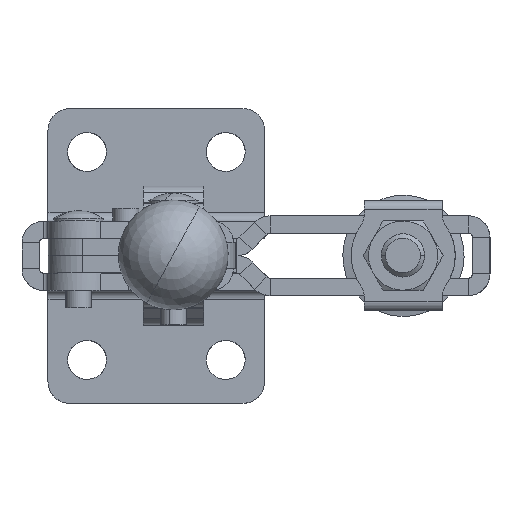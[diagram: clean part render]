
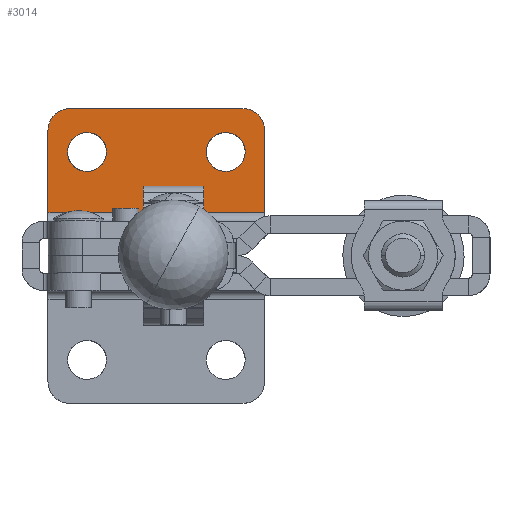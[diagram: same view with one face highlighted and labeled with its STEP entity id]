
A CAD part, top view. The second image highlights one B-rep face of the part: STEP entity #3014.
In plain terms, the highlighted planar face has unit normal (0, 0, 1).
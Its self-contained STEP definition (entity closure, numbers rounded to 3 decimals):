
#862=CARTESIAN_POINT('Vertex',(8.25,12.,-6.)) ;
#866=CARTESIAN_POINT('Control Point',(3.75,12.,-6.)) ;
#867=CARTESIAN_POINT('Control Point',(3.75,12.594,-6.)) ;
#868=CARTESIAN_POINT('Control Point',(3.946,13.189,-6.)) ;
#869=CARTESIAN_POINT('Control Point',(4.34,13.696,-6.)) ;
#870=CARTESIAN_POINT('Control Point',(5.132,14.202,-6.)) ;
#871=CARTESIAN_POINT('Control Point',(6.032,14.28,-6.)) ;
#872=CARTESIAN_POINT('Control Point',(6.334,14.255,-6.)) ;
#873=CARTESIAN_POINT('Control Point',(7.14,14.052,-6.)) ;
#874=CARTESIAN_POINT('Control Point',(7.796,13.507,-6.)) ;
#875=CARTESIAN_POINT('Control Point',(8.099,13.044,-6.)) ;
#876=CARTESIAN_POINT('Control Point',(8.25,12.522,-6.)) ;
#877=CARTESIAN_POINT('Control Point',(8.25,12.,-6.)) ;
#878=CARTESIAN_POINT('Vertex',(3.75,12.,-6.)) ;
#987=CARTESIAN_POINT('Control Point',(8.25,12.,-6.)) ;
#988=CARTESIAN_POINT('Control Point',(8.25,11.478,-6.)) ;
#989=CARTESIAN_POINT('Control Point',(8.099,10.956,-6.)) ;
#990=CARTESIAN_POINT('Control Point',(7.796,10.493,-6.)) ;
#991=CARTESIAN_POINT('Control Point',(7.14,9.948,-6.)) ;
#992=CARTESIAN_POINT('Control Point',(6.334,9.745,-6.)) ;
#993=CARTESIAN_POINT('Control Point',(6.032,9.72,-6.)) ;
#994=CARTESIAN_POINT('Control Point',(5.132,9.798,-6.)) ;
#995=CARTESIAN_POINT('Control Point',(4.34,10.304,-6.)) ;
#996=CARTESIAN_POINT('Control Point',(3.946,10.811,-6.)) ;
#997=CARTESIAN_POINT('Control Point',(3.75,11.406,-6.)) ;
#998=CARTESIAN_POINT('Control Point',(3.75,12.,-6.)) ;
#2245=CARTESIAN_POINT('Axis2P3D Location',(0.,0.,-6.)) ;
#2603=CARTESIAN_POINT('Vertex',(-12.,17.,-6.)) ;
#2608=CARTESIAN_POINT('Line Origine',(-2.,17.,-6.)) ;
#2612=CARTESIAN_POINT('Vertex',(8.,17.,-6.)) ;
#2643=CARTESIAN_POINT('Vertex',(-14.5,14.5,-6.)) ;
#2649=CARTESIAN_POINT('Control Point',(-14.5,14.5,-6.)) ;
#2650=CARTESIAN_POINT('Control Point',(-14.5,15.285,-6.)) ;
#2651=CARTESIAN_POINT('Control Point',(-14.192,16.072,-6.)) ;
#2652=CARTESIAN_POINT('Control Point',(-13.572,16.692,-6.)) ;
#2653=CARTESIAN_POINT('Control Point',(-12.785,17.,-6.)) ;
#2654=CARTESIAN_POINT('Control Point',(-12.,17.,-6.)) ;
#2676=CARTESIAN_POINT('Line Origine',(-14.5,9.75,-6.)) ;
#2680=CARTESIAN_POINT('Vertex',(-14.5,5.,-6.)) ;
#2804=CARTESIAN_POINT('Vertex',(10.5,5.,-6.)) ;
#2840=CARTESIAN_POINT('Vertex',(10.5,14.5,-6.)) ;
#2843=CARTESIAN_POINT('Line Origine',(10.5,9.75,-6.)) ;
#2861=CARTESIAN_POINT('Control Point',(8.,17.,-6.)) ;
#2862=CARTESIAN_POINT('Control Point',(8.785,17.,-6.)) ;
#2863=CARTESIAN_POINT('Control Point',(9.572,16.692,-6.)) ;
#2864=CARTESIAN_POINT('Control Point',(10.192,16.072,-6.)) ;
#2865=CARTESIAN_POINT('Control Point',(10.5,15.285,-6.)) ;
#2866=CARTESIAN_POINT('Control Point',(10.5,14.5,-6.)) ;
#2941=CARTESIAN_POINT('Vertex',(-7.75,12.,-6.)) ;
#2945=CARTESIAN_POINT('Control Point',(-12.25,12.,-6.)) ;
#2946=CARTESIAN_POINT('Control Point',(-12.25,12.594,-6.)) ;
#2947=CARTESIAN_POINT('Control Point',(-12.054,13.189,-6.)) ;
#2948=CARTESIAN_POINT('Control Point',(-11.66,13.696,-6.)) ;
#2949=CARTESIAN_POINT('Control Point',(-10.868,14.202,-6.)) ;
#2950=CARTESIAN_POINT('Control Point',(-9.968,14.28,-6.)) ;
#2951=CARTESIAN_POINT('Control Point',(-9.666,14.255,-6.)) ;
#2952=CARTESIAN_POINT('Control Point',(-8.86,14.052,-6.)) ;
#2953=CARTESIAN_POINT('Control Point',(-8.204,13.507,-6.)) ;
#2954=CARTESIAN_POINT('Control Point',(-7.901,13.044,-6.)) ;
#2955=CARTESIAN_POINT('Control Point',(-7.75,12.522,-6.)) ;
#2956=CARTESIAN_POINT('Control Point',(-7.75,12.,-6.)) ;
#2957=CARTESIAN_POINT('Vertex',(-12.25,12.,-6.)) ;
#2973=CARTESIAN_POINT('Control Point',(-7.75,12.,-6.)) ;
#2974=CARTESIAN_POINT('Control Point',(-7.75,11.478,-6.)) ;
#2975=CARTESIAN_POINT('Control Point',(-7.901,10.956,-6.)) ;
#2976=CARTESIAN_POINT('Control Point',(-8.204,10.493,-6.)) ;
#2977=CARTESIAN_POINT('Control Point',(-8.86,9.948,-6.)) ;
#2978=CARTESIAN_POINT('Control Point',(-9.666,9.745,-6.)) ;
#2979=CARTESIAN_POINT('Control Point',(-9.968,9.72,-6.)) ;
#2980=CARTESIAN_POINT('Control Point',(-10.868,9.798,-6.)) ;
#2981=CARTESIAN_POINT('Control Point',(-11.66,10.304,-6.)) ;
#2982=CARTESIAN_POINT('Control Point',(-12.054,10.811,-6.)) ;
#2983=CARTESIAN_POINT('Control Point',(-12.25,11.406,-6.)) ;
#2984=CARTESIAN_POINT('Control Point',(-12.25,12.,-6.)) ;
#2993=CARTESIAN_POINT('Line Origine',(-2.,5.,-6.)) ;
#2246=DIRECTION('Axis2P3D Direction',(0.,0.,-1.)) ;
#2247=DIRECTION('Axis2P3D XDirection',(1.,0.,0.)) ;
#2609=DIRECTION('Vector Direction',(1.,0.,0.)) ;
#2677=DIRECTION('Vector Direction',(0.,-1.,0.)) ;
#2844=DIRECTION('Vector Direction',(0.,-1.,0.)) ;
#2994=DIRECTION('Vector Direction',(1.,0.,0.)) ;
#2248=AXIS2_PLACEMENT_3D('Plane Axis2P3D',#2245,#2246,#2247) ;
#2999=ORIENTED_EDGE('',*,*,#2997,.T.) ;
#3000=ORIENTED_EDGE('',*,*,#2847,.F.) ;
#3001=ORIENTED_EDGE('',*,*,#2867,.F.) ;
#3002=ORIENTED_EDGE('',*,*,#2614,.F.) ;
#3003=ORIENTED_EDGE('',*,*,#2655,.F.) ;
#3004=ORIENTED_EDGE('',*,*,#2682,.T.) ;
#3007=ORIENTED_EDGE('',*,*,#880,.T.) ;
#3008=ORIENTED_EDGE('',*,*,#999,.T.) ;
#3011=ORIENTED_EDGE('',*,*,#2985,.T.) ;
#3012=ORIENTED_EDGE('',*,*,#2959,.T.) ;
#3009=FACE_BOUND('',#3006,.T.) ;
#3013=FACE_BOUND('',#3010,.T.) ;
#2610=VECTOR('Line Direction',#2609,1.) ;
#2678=VECTOR('Line Direction',#2677,1.) ;
#2845=VECTOR('Line Direction',#2844,1.) ;
#2995=VECTOR('Line Direction',#2994,1.) ;
#3014=ADVANCED_FACE('PartBody',(#3005,#3009,#3013),#2249,.F.) ;
#865=B_SPLINE_CURVE_WITH_KNOTS('',5,(#866,#867,#868,#869,#870,#871,#872,#873,#874,#875,#876,#877),.UNSPECIFIED.,.F.,.U.,(6,3,3,6),(9.996,14.2,16.303,19.992),.UNSPECIFIED.) ;
#986=B_SPLINE_CURVE_WITH_KNOTS('',5,(#987,#988,#989,#990,#991,#992,#993,#994,#995,#996,#997,#998),.UNSPECIFIED.,.F.,.U.,(6,3,3,6),(0.,3.69,5.793,9.996),.UNSPECIFIED.) ;
#2648=B_SPLINE_CURVE_WITH_KNOTS('',5,(#2649,#2650,#2651,#2652,#2653,#2654),.UNSPECIFIED.,.F.,.U.,(6,6),(0.,5.553),.UNSPECIFIED.) ;
#2860=B_SPLINE_CURVE_WITH_KNOTS('',5,(#2861,#2862,#2863,#2864,#2865,#2866),.UNSPECIFIED.,.F.,.U.,(6,6),(0.,5.553),.UNSPECIFIED.) ;
#2944=B_SPLINE_CURVE_WITH_KNOTS('',5,(#2945,#2946,#2947,#2948,#2949,#2950,#2951,#2952,#2953,#2954,#2955,#2956),.UNSPECIFIED.,.F.,.U.,(6,3,3,6),(9.996,14.2,16.303,19.992),.UNSPECIFIED.) ;
#2972=B_SPLINE_CURVE_WITH_KNOTS('',5,(#2973,#2974,#2975,#2976,#2977,#2978,#2979,#2980,#2981,#2982,#2983,#2984),.UNSPECIFIED.,.F.,.U.,(6,3,3,6),(0.,3.69,5.793,9.996),.UNSPECIFIED.) ;
#880=EDGE_CURVE('',#879,#863,#865,.T.) ;
#999=EDGE_CURVE('',#863,#879,#986,.T.) ;
#2614=EDGE_CURVE('',#2604,#2613,#2611,.T.) ;
#2655=EDGE_CURVE('',#2644,#2604,#2648,.T.) ;
#2682=EDGE_CURVE('',#2644,#2681,#2679,.T.) ;
#2847=EDGE_CURVE('',#2841,#2805,#2846,.T.) ;
#2867=EDGE_CURVE('',#2613,#2841,#2860,.T.) ;
#2959=EDGE_CURVE('',#2958,#2942,#2944,.T.) ;
#2985=EDGE_CURVE('',#2942,#2958,#2972,.T.) ;
#2997=EDGE_CURVE('',#2681,#2805,#2996,.T.) ;
#2998=EDGE_LOOP('',(#2999,#3000,#3001,#3002,#3003,#3004)) ;
#3006=EDGE_LOOP('',(#3007,#3008)) ;
#3010=EDGE_LOOP('',(#3011,#3012)) ;
#3005=FACE_OUTER_BOUND('',#2998,.T.) ;
#2611=LINE('Line',#2608,#2610) ;
#2679=LINE('Line',#2676,#2678) ;
#2846=LINE('Line',#2843,#2845) ;
#2996=LINE('Line',#2993,#2995) ;
#2249=PLANE('Plane',#2248) ;
#863=VERTEX_POINT('',#862) ;
#879=VERTEX_POINT('',#878) ;
#2604=VERTEX_POINT('',#2603) ;
#2613=VERTEX_POINT('',#2612) ;
#2644=VERTEX_POINT('',#2643) ;
#2681=VERTEX_POINT('',#2680) ;
#2805=VERTEX_POINT('',#2804) ;
#2841=VERTEX_POINT('',#2840) ;
#2942=VERTEX_POINT('',#2941) ;
#2958=VERTEX_POINT('',#2957) ;
